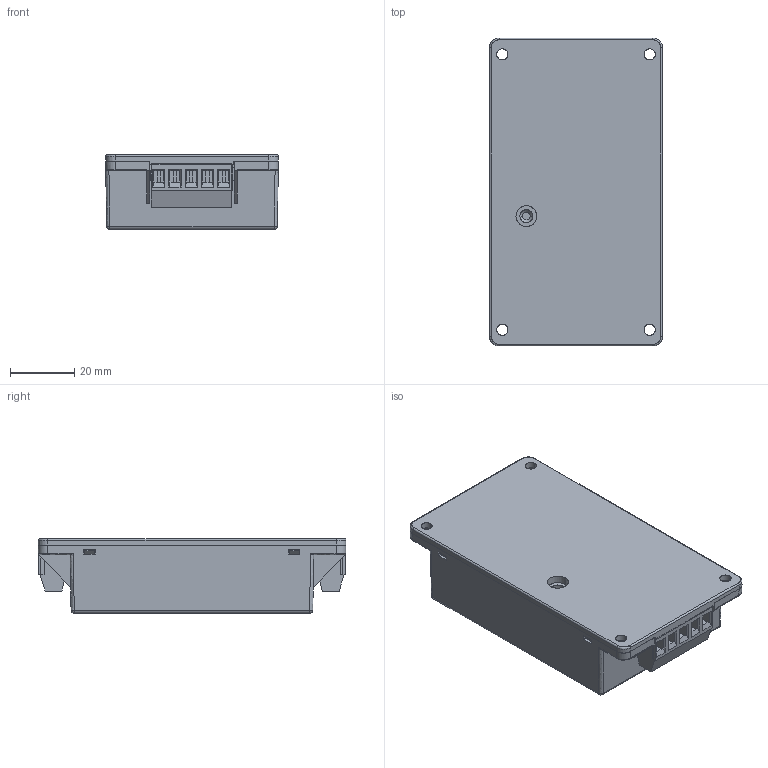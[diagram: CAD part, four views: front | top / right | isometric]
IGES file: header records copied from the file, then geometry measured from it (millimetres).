
Start section: SolidWorks IGES file using analytic representation for surfaces
Global section: file name: C:\Users\ksmith.XPNA\Desktop\DTE20\DTE20.IGS; native system: SolidWorks 2016; preprocessor: SolidWorks 2016; author: ksmith; date: 170109.101658; units: inch
Bounding box: 54 x 96.15 x 23.3 mm (x, y, z)
Surface area: 33791.8 mm2 (no closed solid volume)
Topology: 0 solids, 0 shells, 671 faces, 6528 edges, 6528 vertices
Faces by surface type: bspline 494, revolution 177
